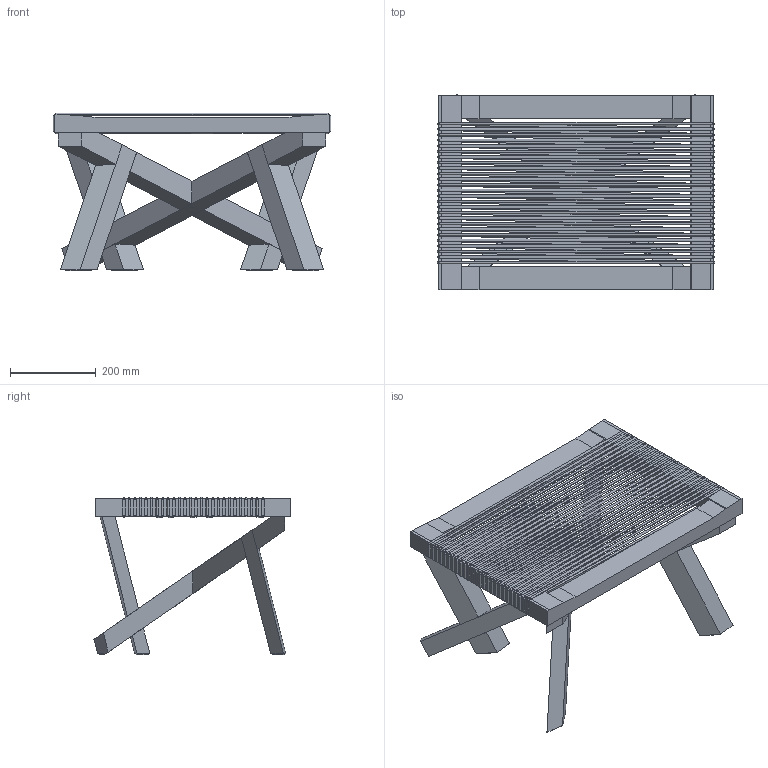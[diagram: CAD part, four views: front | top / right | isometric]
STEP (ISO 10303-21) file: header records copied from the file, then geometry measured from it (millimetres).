
FILE_DESCRIPTION(/* description */ (''),/* implementation_level */ '2;1');
FILE_NAME(/* name */ 'HdM_Volkshaus-Ottomane_3D_20240220',/* time_stamp */ '2024-02-20T12:03:27+01:00',/* author */ (''),/* organization */ (''),/* preprocessor_version */ 'ST-DEVELOPER v19.2',/* originating_system */ 'Rhino 8.3',/* authorisation */ '');
FILE_SCHEMA (('CONFIG_CONTROL_DESIGN'));
Length unit declared in the file: millimetre
Products named in the file (1): Document
Bounding box: 649.2 x 458.5 x 368.59 mm (x, y, z)
Volume: 5726782.5 mm3; surface area: 1549477.6 mm2
Topology: 11 solids, 19 shells, 608 faces, 1329 edges, 742 vertices
Faces by surface type: bspline 273, cylinder 190, plane 145
Entity records: 25628 total; most frequent: CARTESIAN_POINT 15639, ORIENTED_EDGE 2602, EDGE_CURVE 1325, DIRECTION 1106, VERTEX_POINT 740, AXIS2_PLACEMENT_3D 719, EDGE_LOOP 609, ADVANCED_FACE 608
